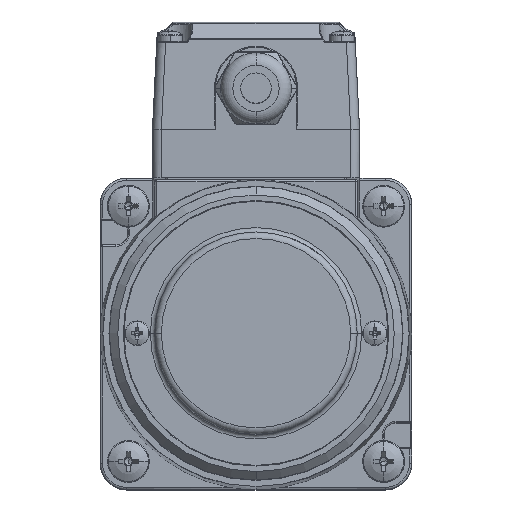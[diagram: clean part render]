
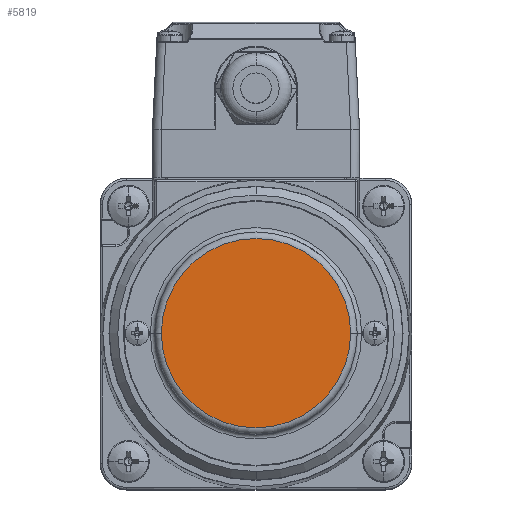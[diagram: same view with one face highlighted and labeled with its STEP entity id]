
A CAD part, top view. The second image highlights one B-rep face of the part: STEP entity #5819.
In plain terms, the highlighted planar face has unit normal (0, 0, 1) as drawn and (0, 1, 0) by its records, which use the part's own axes.
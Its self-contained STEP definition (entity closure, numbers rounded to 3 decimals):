
#157 = EDGE_CURVE ( 'NONE', #43047, #40228, #10246, .T. ) ;
#5062 = AXIS2_PLACEMENT_3D ( 'NONE', #20226, #34679, #10313 ) ;
#5819 = ADVANCED_FACE ( 'NONE', ( #20901 ), #27046, .T. ) ;
#7714 = EDGE_LOOP ( 'NONE', ( #19992, #8302 ) ) ;
#7745 = CARTESIAN_POINT ( 'NONE',  ( 0.005, 92.75, 21.5 ) ) ;
#8302 = ORIENTED_EDGE ( 'NONE', *, *, #157, .T. ) ;
#9141 = AXIS2_PLACEMENT_3D ( 'NONE', #26612, #15989, #26395 ) ;
#9533 = DIRECTION ( 'NONE',  ( -0.011, 0., 1. ) ) ;
#10246 = CIRCLE ( 'NONE', #15300, 21.5 ) ;
#10313 = DIRECTION ( 'NONE',  ( 1., 0., 0. ) ) ;
#15300 = AXIS2_PLACEMENT_3D ( 'NONE', #23081, #26262, #9533 ) ;
#15989 = DIRECTION ( 'NONE',  ( 0., -1., 0. ) ) ;
#19992 = ORIENTED_EDGE ( 'NONE', *, *, #24175, .F. ) ;
#20226 = CARTESIAN_POINT ( 'NONE',  ( 0., 92.75, 0. ) ) ;
#20901 = FACE_OUTER_BOUND ( 'NONE', #7714, .T. ) ;
#21579 = CARTESIAN_POINT ( 'NONE',  ( -0.005, 92.75, -21.5 ) ) ;
#23081 = CARTESIAN_POINT ( 'NONE',  ( 0., 92.75, 0. ) ) ;
#24175 = EDGE_CURVE ( 'NONE', #43047, #40228, #28640, .T. ) ;
#26262 = DIRECTION ( 'NONE',  ( 0., 1., 0. ) ) ;
#26395 = DIRECTION ( 'NONE',  ( 0.011, 0., -1. ) ) ;
#26612 = CARTESIAN_POINT ( 'NONE',  ( 0., 92.75, 0. ) ) ;
#27046 = PLANE ( 'NONE',  #5062 ) ;
#28640 = CIRCLE ( 'NONE', #9141, 21.5 ) ;
#34679 = DIRECTION ( 'NONE',  ( 0., 1., 0. ) ) ;
#40228 = VERTEX_POINT ( 'NONE', #7745 ) ;
#43047 = VERTEX_POINT ( 'NONE', #21579 ) ;
